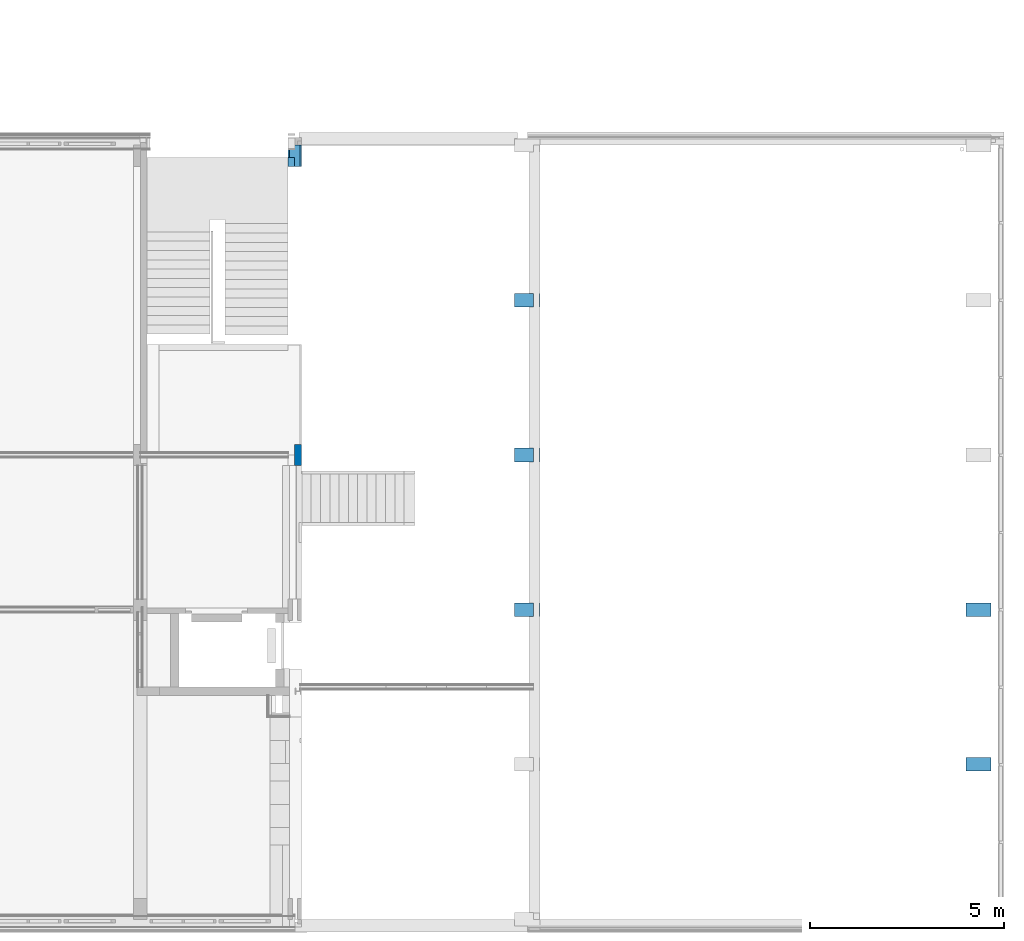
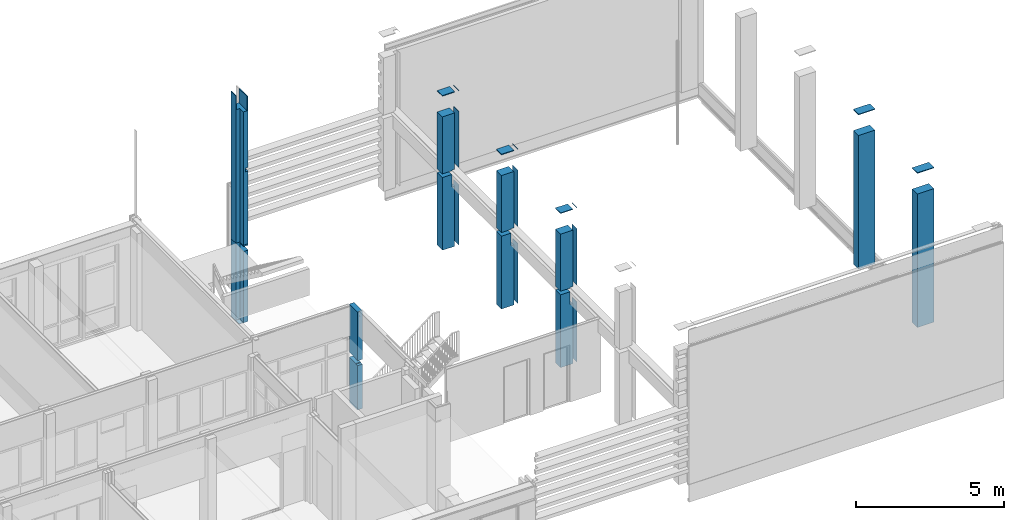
# One storey, part 15 of 94: 8 columns.
"""IFC2X3 building model written with IfcOpenShell, lengths in millimetres."""

from ifc_helpers import new_model, entity, si_unit, converted_unit, derived_unit, money_unit, direction, frame, origin_with_axes, place, context, subcontext, project, spatial, faceted_brep, material, type_object, element, save


model = new_model("IFC2X3")

# Units and contexts
model_context = context("Model", 3, precision=0.01, world=origin_with_axes(), true_north=direction((0.0, 1.0)))
body_context = subcontext(model_context, "Body", "Model", "MODEL_VIEW")
ifc_project = project(units=[si_unit("LENGTHUNIT", "METRE", prefix="MILLI"), si_unit("AREAUNIT", "SQUARE_METRE"), si_unit("VOLUMEUNIT", "CUBIC_METRE"), converted_unit("PLANEANGLEUNIT", "DEGREE", entity("IfcPlaneAngleMeasure", 0.0174532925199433), si_unit("PLANEANGLEUNIT", "RADIAN"), dimensions=[0, 0, 0, 0, 0, 0, 0]), money_unit("EUR"), converted_unit("TIMEUNIT", "Year", entity("IfcTimeMeasure", 31557600.0), si_unit("TIMEUNIT", "SECOND"), dimensions=[0, 0, 1, 0, 0, 0, 0]), si_unit("MASSUNIT", "GRAM", prefix="KILO"), si_unit("THERMODYNAMICTEMPERATUREUNIT", "DEGREE_CELSIUS"), si_unit("LUMINOUSINTENSITYUNIT", "LUMEN"), si_unit("ENERGYUNIT", "JOULE", prefix="MEGA"), derived_unit("THERMALCONDUCTANCEUNIT", [(si_unit("POWERUNIT", "WATT"), 1), (si_unit("LENGTHUNIT", "METRE"), -1), (si_unit("THERMODYNAMICTEMPERATUREUNIT", "KELVIN"), -1)]), derived_unit("SPECIFICHEATCAPACITYUNIT", [(si_unit("ENERGYUNIT", "JOULE"), 1), (si_unit("MASSUNIT", "GRAM", prefix="KILO"), -1), (si_unit("THERMODYNAMICTEMPERATUREUNIT", "KELVIN"), -1)]), derived_unit("MASSDENSITYUNIT", [(si_unit("MASSUNIT", "GRAM", prefix="KILO"), 1), (si_unit("VOLUMEUNIT", "CUBIC_METRE"), -1)])], contexts=[model_context])

# Site, building, storey
site_placement = place(None, origin_with_axes())
site = spatial("IfcSite", under=ifc_project, at=site_placement, Name="<site naam>", CompositionType="ELEMENT")
building_placement = place(site_placement, origin_with_axes())
building = spatial("IfcBuilding", under=site, at=building_placement, Name="<Naam gebouw>", CompositionType="ELEMENT")
storey_placement = place(building_placement, frame((0.0, 0.0, 4250.0), z_axis=(0.0, 0.0, 1.0), x_axis=(1.0, 0.0, 0.0)))
storey = spatial("IfcBuildingStorey", under=building, at=storey_placement, Name="01 1e verdieping", CompositionType="ELEMENT", Elevation=4250.0)

# Columns
ifc_material = material(Name="betonblok C")
column_type_1 = type_object("IfcColumnType", Name="betonblok C 350 x 550", PredefinedType="COLUMN")
column_1_placement = place(storey_placement, frame((52000.00000000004, 19724.99999999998, 2125.0), z_axis=(0.0, 0.0, 1.0), x_axis=(1.0, 0.0, 0.0)))
element("IfcColumn", 1, at=column_1_placement, inside=storey, type_object=column_type_1, material=ifc_material, Name="28_Kolom_betonblok", ObjectType="COLUMN", context=body_context, shape_type="Brep", body=[
    faceted_brep([(174.9999999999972, 275.0000000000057, 500.0), (174.9999999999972, 264.9999975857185, 500.0), (174.9999999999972, 264.9999975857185, 650.0000000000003), (174.9999999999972, 275.0000000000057, 650.0000000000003), (174.9999999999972, 275.0000000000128, 1000.0), (174.9999999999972, 264.9999975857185, 1000.0), (174.9999999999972, 264.9999975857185, 1150.0), (174.9999999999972, 275.0000000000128, 1150.0), (174.9999999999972, 275.0000000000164, 1500.0), (174.9999999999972, 264.9999975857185, 1500.0), (174.9999999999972, 264.9999975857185, 1650.0), (174.9999999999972, 275.0000000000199, 1650.0), (174.9999999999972, 275.0000000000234, 2000.0), (174.9999999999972, 264.9999975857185, 2000.0), (174.9999999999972, 264.9999975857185, 2150.0), (174.9999999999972, 275.000000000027, 2150.0), (174.9999999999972, 275.000000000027, 2500.0), (174.9999999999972, 264.9999975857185, 2500.0), (174.9999999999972, 264.9999975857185, 2650.0), (174.9999999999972, 275.0000000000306, 2650.0), (174.9999999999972, 275.0000000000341, 3000.0), (174.9999999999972, 264.9999975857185, 3000.0), (174.9999999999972, 264.9999975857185, 3008.000000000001), (174.9999999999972, -274.9999999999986, 3008.000000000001), (174.9999999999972, -274.9999999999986, 0.0), (174.9999999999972, 274.9999999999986, 0.0), (104.9999999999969, 264.9999975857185, 500.0), (104.9999999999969, 275.0000000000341, 500.0), (104.9999999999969, 264.9999975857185, 650.0000000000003), (104.9999999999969, 275.0000000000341, 650.0000000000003), (-174.9999999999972, 274.9999999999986, 0.0), (-174.9999999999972, 274.9999999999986, 6094.999999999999), (-145.0000000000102, 274.9999999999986, 6094.999999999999), (-145.0000000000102, 275.0000000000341, 5515.000000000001), (134.9999999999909, 275.0000000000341, 5515.000000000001), (134.9999999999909, 274.9999999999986, 6094.999999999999), (174.9999999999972, 274.9999999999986, 6094.999999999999), (174.9999999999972, 275.0000000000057, 5337.5), (104.9999999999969, 275.0000000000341, 5337.5), (104.9999999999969, 275.0000000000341, 5187.5), (174.9999999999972, 275.0000000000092, 5187.5), (174.9999999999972, 275.0000000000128, 4837.5), (104.9999999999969, 275.0000000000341, 4837.5), (104.9999999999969, 275.0000000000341, 4687.5), (174.9999999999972, 275.0000000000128, 4687.5), (174.9999999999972, 275.0000000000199, 4337.5), (104.9999999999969, 275.0000000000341, 4337.5), (104.9999999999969, 275.0000000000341, 4187.5), (174.9999999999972, 275.0000000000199, 4187.5), (174.9999999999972, 275.000000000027, 3837.5), (104.9999999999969, 275.0000000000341, 3837.5), (104.9999999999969, 275.0000000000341, 3687.5), (174.9999999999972, 275.000000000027, 3687.5), (174.9999999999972, 275.0000000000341, 3158.000000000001), (64.99999999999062, 275.0000000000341, 3158.000000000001), (64.99999999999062, 275.0000000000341, 3008.000000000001), (104.9999999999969, 275.0000000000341, 3008.000000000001), (104.9999999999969, 275.0000000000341, 3000.0), (104.9999999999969, 275.0000000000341, 2650.0), (104.9999999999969, 275.0000000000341, 2500.0), (104.9999999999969, 275.0000000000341, 2150.0), (104.9999999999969, 275.0000000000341, 2000.0), (104.9999999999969, 275.0000000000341, 1650.0), (104.9999999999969, 275.0000000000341, 1500.0), (104.9999999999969, 275.0000000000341, 1150.0), (104.9999999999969, 275.0000000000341, 1000.0), (104.9999999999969, 264.9999975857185, 1000.0), (104.9999999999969, 264.9999975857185, 1150.0), (104.9999999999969, 264.9999975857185, 1500.0), (104.9999999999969, 264.9999975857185, 1650.0), (104.9999999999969, 264.9999975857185, 2000.0), (104.9999999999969, 264.9999975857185, 2150.0), (104.9999999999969, 264.9999975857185, 2500.0), (104.9999999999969, 264.9999975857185, 2650.0), (104.9999999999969, 264.9999975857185, 3000.0), (104.9999999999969, 264.9999975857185, 3008.000000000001), (64.99999999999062, -274.9999999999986, 3008.000000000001), (134.9999999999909, -274.9999999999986, 6094.999999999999), (134.9999999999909, -274.9999999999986, 5515.000000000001), (-15.00000000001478, -274.9999999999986, 5515.000000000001), (-15.00000000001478, -274.9999999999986, 0.0), (64.99999999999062, -274.9999999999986, 3158.000000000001), (174.9999999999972, -274.9999999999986, 3158.000000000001), (174.9999999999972, -274.9999999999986, 6094.999999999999), (-15.00000000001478, -39.08932188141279, 0.0), (-175.0000000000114, -39.08932188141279, 0.0), (-175.0000000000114, -39.08932188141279, 6094.999999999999), (-145.0000000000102, -39.08932188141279, 6094.999999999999), (-145.0000000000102, -39.08932188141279, 5515.000000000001), (-15.00000000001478, -39.08932188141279, 5515.000000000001), (174.9999999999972, 264.9999975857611, 3687.5), (174.9999999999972, 264.9999975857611, 3837.5), (174.9999999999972, 264.9999975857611, 4187.5), (174.9999999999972, 264.9999975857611, 4337.5), (174.9999999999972, 264.9999975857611, 4687.5), (174.9999999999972, 264.9999975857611, 4837.5), (174.9999999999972, 264.9999975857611, 5187.5), (174.9999999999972, 264.9999975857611, 5337.5), (104.9999999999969, 264.9999975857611, 5337.5), (104.9999999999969, 264.9999975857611, 5187.5), (104.9999999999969, 264.9999975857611, 4837.5), (104.9999999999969, 264.9999975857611, 4687.5), (104.9999999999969, 264.9999975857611, 4337.5), (104.9999999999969, 264.9999975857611, 4187.5), (104.9999999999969, 264.9999975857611, 3837.5), (104.9999999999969, 264.9999975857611, 3687.5)], [[[0, 1, 2, 3, 4, 5, 6, 7, 8, 9, 10, 11, 12, 13, 14, 15, 16, 17, 18, 19, 20, 21, 22, 23, 24, 25]], [[26, 1, 0, 27]], [[28, 2, 1, 26]], [[28, 29, 3, 2]], [[29, 27, 0, 25, 30, 31, 32, 33, 34, 35, 36, 37, 38, 39, 40, 41, 42, 43, 44, 45, 46, 47, 48, 49, 50, 51, 52, 53, 54, 55, 56, 57, 20, 19, 58, 59, 16, 15, 60, 61, 12, 11, 62, 63, 8, 7, 64, 65, 4, 3]], [[66, 5, 4, 65]], [[67, 6, 5, 66]], [[67, 64, 7, 6]], [[68, 9, 8, 63]], [[69, 10, 9, 68]], [[69, 62, 11, 10]], [[70, 13, 12, 61]], [[71, 14, 13, 70]], [[71, 60, 15, 14]], [[72, 17, 16, 59]], [[73, 18, 17, 72]], [[73, 58, 19, 18]], [[74, 21, 20, 57]], [[74, 75, 22, 21]], [[22, 75, 56, 55, 76, 23]], [[77, 78, 79, 80, 24, 23, 76, 81, 82, 83]], [[25, 24, 80, 84, 85, 30]], [[26, 27, 29, 28]], [[31, 30, 85, 86]], [[86, 87, 32, 31]], [[88, 33, 32, 87]], [[78, 34, 33, 88, 89, 79]], [[78, 77, 35, 34]], [[36, 35, 77, 83]], [[52, 90, 91, 49, 48, 92, 93, 45, 44, 94, 95, 41, 40, 96, 97, 37, 36, 83, 82, 53]], [[98, 38, 37, 97]], [[99, 39, 38, 98]], [[99, 96, 40, 39]], [[100, 42, 41, 95]], [[101, 43, 42, 100]], [[101, 94, 44, 43]], [[102, 46, 45, 93]], [[103, 47, 46, 102]], [[103, 92, 48, 47]], [[104, 50, 49, 91]], [[105, 51, 50, 104]], [[105, 90, 52, 51]], [[82, 81, 54, 53]], [[81, 76, 55, 54]], [[74, 57, 56, 75]], [[72, 59, 58, 73]], [[70, 61, 60, 71]], [[68, 63, 62, 69]], [[66, 65, 64, 67]], [[80, 79, 89, 84]], [[89, 88, 87, 86, 85, 84]], [[104, 91, 90, 105]], [[102, 93, 92, 103]], [[100, 95, 94, 101]], [[98, 97, 96, 99]]]),
])
column_2_placement = place(storey_placement, frame((52000.00000000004, 19724.99999999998, -1082.5), z_axis=(0.0, 0.0, 1.0), x_axis=(1.0, 0.0, 0.0)))
element("IfcColumn", 2, at=column_2_placement, inside=storey, type_object=column_type_1, material=ifc_material, Name="28_Kolom_betonblok", ObjectType="COLUMN", context=body_context, shape_type="Brep", body=[
    faceted_brep([(174.9999999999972, 275.0000000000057, 519.9999999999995), (174.9999999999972, 264.9999975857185, 519.9999999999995), (174.9999999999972, 264.9999975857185, 669.9999999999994), (174.9999999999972, 275.0000000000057, 669.9999999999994), (174.9999999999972, 275.0000000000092, 1020.0), (174.9999999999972, 264.9999975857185, 1020.0), (174.9999999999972, 264.9999975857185, 1170.0), (174.9999999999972, 275.0000000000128, 1170.0), (174.9999999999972, 275.0000000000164, 1520.0), (174.9999999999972, 264.9999975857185, 1520.0), (174.9999999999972, 264.9999975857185, 1670.0), (174.9999999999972, 275.0000000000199, 1670.0), (174.9999999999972, 275.0000000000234, 2020.0), (174.9999999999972, 264.9999975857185, 2020.0), (174.9999999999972, 264.9999975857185, 2170.0), (174.9999999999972, 275.0000000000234, 2170.0), (174.9999999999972, 275.0000000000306, 2520.0), (174.9999999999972, 264.9999975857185, 2520.0), (174.9999999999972, 264.9999975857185, 2670.0), (174.9999999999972, 275.0000000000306, 2670.0), (174.9999999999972, 275.0000000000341, 2947.499999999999), (174.9999999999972, -274.9999999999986, 2947.499999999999), (174.9999999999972, -274.9999999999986, 0.0), (174.9999999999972, 274.9999999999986, 0.0), (104.9999999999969, 264.9999975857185, 519.9999999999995), (104.9999999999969, 275.0000000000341, 519.9999999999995), (104.9999999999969, 264.9999975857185, 669.9999999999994), (104.9999999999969, 275.0000000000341, 669.9999999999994), (-174.9999999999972, 274.9999999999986, 0.0), (-174.9999999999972, 274.9999999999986, 3227.499999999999), (174.9999999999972, 274.9999999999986, 3227.499999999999), (174.9999999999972, 275.0000000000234, 3170.0), (104.9999999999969, 275.0000000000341, 3170.0), (104.9999999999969, 275.0000000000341, 3147.499999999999), (-15.00009753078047, 275.0000000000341, 3147.499999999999), (-15.00009753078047, 275.0000000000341, 2947.499999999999), (104.9999999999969, 275.0000000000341, 2670.0), (104.9999999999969, 275.0000000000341, 2520.0), (104.9999999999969, 275.0000000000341, 2170.0), (104.9999999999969, 275.0000000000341, 2020.0), (104.9999999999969, 275.0000000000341, 1670.0), (104.9999999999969, 275.0000000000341, 1520.0), (104.9999999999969, 275.0000000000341, 1170.0), (104.9999999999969, 275.0000000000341, 1020.0), (104.9999999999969, 264.9999975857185, 1020.0), (104.9999999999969, 264.9999975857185, 1170.0), (104.9999999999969, 264.9999975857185, 1520.0), (104.9999999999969, 264.9999975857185, 1670.0), (104.9999999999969, 264.9999975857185, 2020.0), (104.9999999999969, 264.9999975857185, 2170.0), (104.9999999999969, 264.9999975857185, 2520.0), (104.9999999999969, 264.9999975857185, 2670.0), (-15.00009753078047, -39.08932188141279, 2947.499999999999), (-15.00009753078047, -274.9999999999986, 2947.499999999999), (-174.9999999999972, -274.9999999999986, 0.0), (-15.00000000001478, -274.9999999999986, 20.49999999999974), (-175.0000000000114, -274.9999999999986, 20.49999999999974), (-175.0000000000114, -39.08932188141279, 20.49999999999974), (-175.0000000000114, -39.08932188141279, 3227.499999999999), (-15.00000000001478, -39.08932188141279, 3227.499999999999), (-15.00000000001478, -274.9999999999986, 3227.499999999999), (174.9999999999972, -274.9999999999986, 3227.499999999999), (174.9999999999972, -274.9999999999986, 3147.499999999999), (174.9999999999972, 264.9999975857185, 3147.499999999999), (174.9999999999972, 264.9999975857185, 3170.0), (104.9999999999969, 264.9999975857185, 3170.0), (104.9999999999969, 264.9999975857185, 3147.499999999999), (-15.00009753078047, -274.9999999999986, 3147.499999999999), (-15.00009753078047, -39.08932188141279, 3147.499999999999), (-15.00000000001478, -39.08932188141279, 20.49999999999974)], [[[0, 1, 2, 3, 4, 5, 6, 7, 8, 9, 10, 11, 12, 13, 14, 15, 16, 17, 18, 19, 20, 21, 22, 23]], [[24, 1, 0, 25]], [[26, 2, 1, 24]], [[26, 27, 3, 2]], [[27, 25, 0, 23, 28, 29, 30, 31, 32, 33, 34, 35, 20, 19, 36, 37, 16, 15, 38, 39, 12, 11, 40, 41, 8, 7, 42, 43, 4, 3]], [[44, 5, 4, 43]], [[45, 6, 5, 44]], [[45, 42, 7, 6]], [[46, 9, 8, 41]], [[47, 10, 9, 46]], [[47, 40, 11, 10]], [[48, 13, 12, 39]], [[49, 14, 13, 48]], [[49, 38, 15, 14]], [[50, 17, 16, 37]], [[51, 18, 17, 50]], [[51, 36, 19, 18]], [[52, 53, 21, 20, 35]], [[54, 22, 21, 53, 55, 56]], [[54, 28, 23, 22]], [[24, 25, 27, 26]], [[28, 54, 56, 57, 58, 29]], [[30, 29, 58, 59, 60, 61]], [[62, 63, 64, 31, 30, 61]], [[65, 32, 31, 64]], [[66, 33, 32, 65]], [[33, 66, 63, 62, 67, 68, 34]], [[68, 52, 35, 34]], [[50, 37, 36, 51]], [[48, 39, 38, 49]], [[46, 41, 40, 47]], [[44, 43, 42, 45]], [[69, 55, 53, 52]], [[55, 69, 57, 56]], [[57, 69, 52, 68, 59, 58]], [[60, 59, 68, 67]], [[61, 60, 67, 62]], [[65, 64, 63, 66]]]),
])
column_3_placement = place(storey_placement, frame((52000.00000000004, 12000.00000000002, 0.0), z_axis=(0.0, 0.0, 1.0), x_axis=(1.0, 0.0, 0.0)))
element("IfcColumn", 3, at=column_3_placement, inside=storey, type_object=column_type_1, material=ifc_material, Name="28_Kolom_betonblok", ObjectType="COLUMN", context=body_context, shape_type="Brep", body=[
    faceted_brep([(-15.00000000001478, 274.9999999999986, 0.0), (-15.00009753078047, 274.9999999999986, 1864.999999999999), (174.9999999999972, 275.0000000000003, 1864.999999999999), (174.9999999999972, 275.0000000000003, 0.0), (-15.00000000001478, -175.0000000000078, 1834.999999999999), (-15.00009753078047, -175.0000000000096, 1864.999999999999), (-15.00000000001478, -274.9999999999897, 0.0), (-15.00000000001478, -275.0000000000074, 1834.999999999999), (174.9999999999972, -175.0000000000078, 1864.999999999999), (174.9999999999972, -175.000000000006, 1834.999999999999), (174.9999999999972, -275.0000000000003, 1834.999999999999), (174.9999999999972, -275.0000000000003, 0.0), (174.679445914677, -275.0000000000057, 1834.999999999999)], [[[0, 1, 2, 3]], [[4, 5, 1, 0, 6, 7]], [[5, 8, 2, 1]], [[3, 2, 8, 9, 10, 11]], [[3, 11, 6, 0]], [[9, 8, 5, 4]], [[10, 12, 7, 6, 11]], [[12, 10, 9, 4, 7]]]),
    faceted_brep([(174.9999999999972, -275.0000000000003, 2034.999999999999), (174.9999999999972, -175.0000000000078, 2034.999999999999), (174.9999999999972, -175.0000000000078, 2065.0), (174.9999999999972, 275.0000000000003, 2065.0), (174.9999999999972, 275.0000000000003, 4050.000000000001), (174.9999999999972, -275.0000000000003, 4050.000000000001), (-15.00000000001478, -275.0000000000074, 2034.999999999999), (-15.00009753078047, -175.0000000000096, 2034.999999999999), (174.679445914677, -275.0000000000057, 2034.999999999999), (-15.00009753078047, -175.0000000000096, 2065.0), (-15.00009753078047, 274.9999999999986, 2065.0), (-15.00000000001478, 274.9999999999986, 4050.000000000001), (-15.00000000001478, -275.0000000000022, 4050.000000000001)], [[[0, 1, 2, 3, 4, 5]], [[6, 7, 1, 0, 8]], [[9, 2, 1, 7]], [[9, 10, 3, 2]], [[4, 3, 10, 11]], [[5, 4, 11, 12]], [[6, 8, 0, 5, 12]], [[10, 9, 7, 6, 12, 11]]]),
])
column_type_2 = type_object("IfcColumnType", Name="betonblok C 350 x 650", PredefinedType="COLUMN")
column_4_placement = place(storey_placement, frame((58000.00000000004, 15999.99999999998, 2125.0), z_axis=(0.0, 0.0, 1.0), x_axis=(0.0, -1.0, 0.0)))
element("IfcColumn", 4, at=column_4_placement, inside=storey, type_object=column_type_2, material=ifc_material, Name="28_Kolom_betonblok", ObjectType="COLUMN", context=body_context, shape_type="Brep", body=[
    faceted_brep([(-175.0000000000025, -325.0000000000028, 3008.000000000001), (-174.9999999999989, 44.99999999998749, 3008.000000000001), (-175.0000000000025, 44.99999999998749, 2487.500000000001), (-175.0000000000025, 157.7828447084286, 2487.500000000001), (-175.0000000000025, 157.7828447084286, 0.0), (-175.0000000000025, -325.0000000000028, 0.0), (175.0000000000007, -325.0000000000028, 3008.000000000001), (175.0000000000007, 44.99999999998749, 3008.000000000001), (175.0000000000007, 44.99999999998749, 2487.500000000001), (175.0000000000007, 157.7828447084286, 2487.500000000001), (175.0000000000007, 157.7828447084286, 0.0), (175.0000000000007, -325.0000000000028, 0.0)], [[[0, 1, 2, 3, 4, 5]], [[6, 7, 1, 0]], [[8, 2, 1, 7]], [[8, 9, 3, 2]], [[4, 3, 9, 10]], [[10, 11, 5, 4]], [[5, 11, 6, 0]], [[9, 8, 7, 6, 11, 10]]]),
    faceted_brep([(175.0000000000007, 157.7828447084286, 6365.0), (175.0000000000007, 45.00000000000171, 6365.0), (175.0000000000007, -325.0000000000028, 6365.0), (-175.0000000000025, -325.0000000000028, 6365.0), (-175.0000000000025, 45.00000000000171, 6365.0), (-175.0000000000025, 157.7828447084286, 6365.0), (175.0000000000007, -325.0000000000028, 6395.0), (175.0000000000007, 157.7828447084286, 6395.0), (-175.0000000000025, -325.0000000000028, 6395.0), (-175.0000000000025, 157.7828447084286, 6395.0)], [[[0, 1, 2, 3, 4, 5]], [[6, 2, 1, 0, 7]], [[8, 3, 2, 6]], [[5, 4, 3, 8, 9]], [[7, 0, 5, 9]], [[9, 8, 6, 7]]]),
    faceted_brep([(-175.0000000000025, -325.0000000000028, 3158.000000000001), (-175.0000000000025, -325.0000000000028, 5515.000000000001), (-175.0000000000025, 45.00000000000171, 5515.000000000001), (-175.0000000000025, 157.7828447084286, 5515.000000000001), (-175.0000000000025, 157.7828447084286, 3187.5), (-175.0000000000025, 44.99999999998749, 3187.5), (-174.9999999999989, 44.99999999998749, 3158.000000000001), (175.0000000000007, -325.0000000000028, 3158.000000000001), (175.0000000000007, -325.0000000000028, 5515.000000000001), (175.0000000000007, 45.00000000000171, 5515.000000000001), (175.0000000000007, 157.7828447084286, 5515.000000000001), (175.0000000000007, 157.7828447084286, 3187.5), (175.0000000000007, 44.99999999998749, 3187.5), (175.0000000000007, 44.99999999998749, 3158.000000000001)], [[[0, 1, 2, 3, 4, 5, 6]], [[7, 8, 1, 0]], [[3, 2, 1, 8, 9, 10]], [[4, 3, 10, 11]], [[12, 5, 4, 11]], [[13, 6, 5, 12]], [[0, 6, 13, 7]], [[10, 9, 8, 7, 13, 12, 11]]]),
    faceted_brep([(-175.000000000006, 317.7828447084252, 0.0), (-175.0000000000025, 317.7828447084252, 2487.500000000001), (-175.0000000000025, 324.9999999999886, 2487.500000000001), (-175.0000000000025, 325.0000000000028, 0.0), (175.0000000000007, 317.7828447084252, 0.0), (175.0000000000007, 317.7828447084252, 2487.500000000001), (175.0000000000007, 324.9999999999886, 2487.500000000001), (175.0000000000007, 325.0000000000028, 0.0)], [[[0, 1, 2, 3]], [[4, 5, 1, 0]], [[5, 6, 2, 1]], [[3, 2, 6, 7]], [[0, 3, 7, 4]], [[7, 6, 5, 4]]]),
    faceted_brep([(-175.0000000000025, 317.7828447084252, 3187.5), (-175.0000000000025, 317.7828447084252, 5515.000000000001), (-175.0000000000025, 325.0000000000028, 5515.000000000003), (-175.0000000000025, 324.9999999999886, 3187.5), (175.0000000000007, 317.7828447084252, 3187.5), (175.0000000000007, 317.7828447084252, 5515.000000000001), (175.0000000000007, 325.0000000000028, 5515.000000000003), (175.0000000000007, 324.9999999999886, 3187.5)], [[[0, 1, 2, 3]], [[4, 5, 1, 0]], [[5, 6, 2, 1]], [[3, 2, 6, 7]], [[4, 0, 3, 7]], [[7, 6, 5, 4]]]),
    faceted_brep([(175.0000000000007, 325.0000000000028, 6395.0), (175.0000000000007, 325.0000000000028, 6365.0), (-175.0000000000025, 325.0000000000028, 6365.0), (-175.0000000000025, 325.0000000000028, 6395.0), (175.0000000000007, 317.7828447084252, 6395.0), (175.0000000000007, 317.7828447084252, 6365.0), (-175.0000000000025, 317.7828447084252, 6365.0), (-175.0000000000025, 317.7828447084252, 6395.0)], [[[0, 1, 2, 3]], [[4, 5, 1, 0]], [[5, 6, 2, 1]], [[3, 2, 6, 7]], [[4, 0, 3, 7]], [[7, 6, 5, 4]]]),
])
column_5_placement = place(storey_placement, frame((58000.00000000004, 12000.00000000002, 2125.0), z_axis=(0.0, 0.0, 1.0), x_axis=(0.0, -1.0, 0.0)))
element("IfcColumn", 5, at=column_5_placement, inside=storey, type_object=column_type_2, material=ifc_material, Name="28_Kolom_betonblok", ObjectType="COLUMN", context=body_context, shape_type="Brep", body=[
    faceted_brep([(-175.0000000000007, -325.0000000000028, 3008.000000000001), (-174.9999999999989, 44.99999999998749, 3008.000000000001), (-175.0000000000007, 44.99999999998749, 2487.500000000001), (-175.0000000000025, 157.7828447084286, 2487.500000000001), (-175.0000000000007, 157.7828447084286, 0.0), (-175.0000000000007, -325.0000000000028, 0.0), (175.0000000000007, -325.0000000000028, 3008.000000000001), (174.9999999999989, 44.99999999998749, 3008.000000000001), (174.9999999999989, 44.99999999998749, 2487.500000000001), (175.0000000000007, 157.7828447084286, 2487.500000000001), (175.0000000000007, 157.7828447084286, 0.0), (175.0000000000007, -325.0000000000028, 0.0)], [[[0, 1, 2, 3, 4, 5]], [[6, 7, 1, 0]], [[8, 2, 1, 7]], [[8, 9, 3, 2]], [[4, 3, 9, 10]], [[10, 11, 5, 4]], [[5, 11, 6, 0]], [[9, 8, 7, 6, 11, 10]]]),
    faceted_brep([(175.0000000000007, 157.7828447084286, 6365.0), (175.0000000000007, 45.00000000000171, 6365.0), (175.0000000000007, -325.0000000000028, 6365.0), (-175.0000000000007, -325.0000000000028, 6365.0), (-175.0000000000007, 45.00000000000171, 6365.0), (-175.0000000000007, 157.7828447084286, 6365.0), (175.0000000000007, -325.0000000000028, 6395.0), (175.0000000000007, 157.7828447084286, 6395.0), (-175.0000000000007, -325.0000000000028, 6395.0), (-175.0000000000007, 157.7828447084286, 6395.0)], [[[0, 1, 2, 3, 4, 5]], [[6, 2, 1, 0, 7]], [[8, 3, 2, 6]], [[5, 4, 3, 8, 9]], [[7, 0, 5, 9]], [[9, 8, 6, 7]]]),
    faceted_brep([(-175.0000000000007, -325.0000000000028, 3158.000000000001), (-175.0000000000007, -325.0000000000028, 5515.000000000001), (-175.0000000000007, 45.00000000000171, 5515.000000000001), (-175.0000000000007, 157.7828447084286, 5515.000000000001), (-175.0000000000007, 157.7828447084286, 3187.5), (-175.0000000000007, 44.99999999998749, 3187.5), (-174.9999999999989, 44.99999999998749, 3158.000000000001), (175.0000000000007, -325.0000000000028, 3158.000000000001), (175.0000000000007, -325.0000000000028, 5515.000000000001), (175.0000000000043, 45.00000000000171, 5515.000000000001), (175.0000000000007, 157.7828447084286, 5515.000000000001), (175.0000000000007, 157.7828447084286, 3187.5), (174.9999999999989, 44.99999999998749, 3187.5), (175.0000000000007, 44.99999999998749, 3158.000000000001)], [[[0, 1, 2, 3, 4, 5, 6]], [[7, 8, 1, 0]], [[3, 2, 1, 8, 9, 10]], [[4, 3, 10, 11]], [[12, 5, 4, 11]], [[13, 6, 5, 12]], [[0, 6, 13, 7]], [[10, 9, 8, 7, 13, 12, 11]]]),
    faceted_brep([(-175.0000000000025, 317.7828447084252, 0.0), (-175.0000000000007, 317.7828447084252, 2487.500000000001), (-175.0000000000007, 324.9999999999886, 2487.500000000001), (-175.0000000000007, 325.0000000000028, 0.0), (175.0000000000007, 317.7828447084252, 0.0), (175.0000000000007, 317.7828447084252, 2487.500000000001), (175.0000000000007, 324.9999999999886, 2487.500000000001), (175.0000000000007, 325.0000000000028, 0.0)], [[[0, 1, 2, 3]], [[4, 5, 1, 0]], [[5, 6, 2, 1]], [[3, 2, 6, 7]], [[0, 3, 7, 4]], [[7, 6, 5, 4]]]),
    faceted_brep([(-175.0000000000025, 317.7828447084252, 3187.5), (-175.0000000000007, 317.7828447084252, 5515.000000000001), (-175.0000000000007, 325.0000000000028, 5515.000000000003), (-175.0000000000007, 324.9999999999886, 3187.5), (175.0000000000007, 317.7828447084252, 3187.5), (175.0000000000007, 317.7828447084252, 5515.000000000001), (175.0000000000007, 325.0000000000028, 5515.000000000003), (174.9999999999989, 324.9999999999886, 3187.5)], [[[0, 1, 2, 3]], [[4, 5, 1, 0]], [[5, 6, 2, 1]], [[3, 2, 6, 7]], [[4, 0, 3, 7]], [[7, 6, 5, 4]]]),
    faceted_brep([(175.0000000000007, 325.0000000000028, 6395.0), (175.0000000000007, 325.0000000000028, 6365.0), (-175.0000000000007, 325.0000000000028, 6365.0), (-175.0000000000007, 325.0000000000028, 6395.0), (175.0000000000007, 317.7828447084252, 6395.0), (175.0000000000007, 317.7828447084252, 6365.0), (-175.0000000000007, 317.7828447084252, 6365.0), (-175.0000000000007, 317.7828447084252, 6395.0)], [[[0, 1, 2, 3]], [[4, 5, 1, 0]], [[5, 6, 2, 1]], [[3, 2, 6, 7]], [[4, 0, 3, 7]], [[7, 6, 5, 4]]]),
])
column_6_placement = place(storey_placement, frame((58000.00000000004, 8000.000000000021, 2125.0), z_axis=(0.0, 0.0, 1.0), x_axis=(0.0, -1.0, 0.0)))
element("IfcColumn", 6, at=column_6_placement, inside=storey, type_object=column_type_2, material=ifc_material, Name="28_Kolom_betonblok", ObjectType="COLUMN", context=body_context, shape_type="Brep", body=[
    faceted_brep([(-175.0000000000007, -325.0000000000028, 3008.000000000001), (-175.0000000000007, 44.99999999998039, 3008.000000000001), (-175.0000000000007, 44.99999999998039, 2487.500000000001), (-175.0000000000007, 157.7828447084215, 2487.500000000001), (-174.9999999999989, 157.7828447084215, 0.0), (-175.0000000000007, -325.0000000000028, 0.0), (174.9999999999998, -325.0000000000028, 3008.000000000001), (174.9999999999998, 44.99999999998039, 3008.000000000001), (174.9999999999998, 44.99999999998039, 2487.500000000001), (174.9999999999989, 157.7828447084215, 2487.500000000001), (174.9999999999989, 157.7828447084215, 0.0), (174.9999999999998, -325.0000000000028, 0.0)], [[[0, 1, 2, 3, 4, 5]], [[6, 7, 1, 0]], [[8, 2, 1, 7]], [[8, 9, 3, 2]], [[4, 3, 9, 10]], [[10, 11, 5, 4]], [[5, 11, 6, 0]], [[9, 8, 7, 6, 11, 10]]]),
    faceted_brep([(174.9999999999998, 157.7828447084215, 6365.0), (174.999999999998, 45.00000000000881, 6365.0), (174.9999999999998, -325.0000000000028, 6365.0), (-175.0000000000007, -325.0000000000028, 6365.0), (-175.0000000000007, 45.00000000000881, 6365.0), (-175.0000000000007, 157.7828447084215, 6365.0), (174.9999999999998, -325.0000000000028, 6395.0), (174.9999999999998, 157.7828447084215, 6395.0), (-175.0000000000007, -325.0000000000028, 6395.0), (-175.0000000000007, 157.7828447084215, 6395.0)], [[[0, 1, 2, 3, 4, 5]], [[6, 2, 1, 0, 7]], [[8, 3, 2, 6]], [[5, 4, 3, 8, 9]], [[7, 0, 5, 9]], [[9, 8, 6, 7]]]),
    faceted_brep([(-175.0000000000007, -325.0000000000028, 3158.000000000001), (-175.0000000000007, -325.0000000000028, 5515.000000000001), (-175.0000000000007, 45.00000000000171, 5515.000000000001), (-175.0000000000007, 157.7828447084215, 5515.000000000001), (-174.9999999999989, 157.7828447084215, 3187.5), (-175.0000000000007, 44.99999999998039, 3187.5), (-175.0000000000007, 44.99999999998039, 3158.000000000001), (174.9999999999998, -325.0000000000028, 3158.000000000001), (174.9999999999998, -325.0000000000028, 5515.000000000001), (174.999999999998, 45.00000000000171, 5515.000000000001), (174.9999999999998, 157.7828447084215, 5515.000000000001), (174.9999999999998, 157.7828447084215, 3187.5), (174.9999999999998, 44.99999999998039, 3187.5), (175.0000000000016, 44.99999999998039, 3158.000000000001)], [[[0, 1, 2, 3, 4, 5, 6]], [[7, 8, 1, 0]], [[3, 2, 1, 8, 9, 10]], [[4, 3, 10, 11]], [[12, 5, 4, 11]], [[13, 6, 5, 12]], [[0, 6, 13, 7]], [[10, 9, 8, 7, 13, 12, 11]]]),
    faceted_brep([(-175.0000000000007, 317.7828447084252, 0.0), (-174.9999999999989, 317.7828447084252, 2487.500000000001), (-175.0000000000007, 324.9999999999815, 2487.500000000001), (-175.0000000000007, 325.0000000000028, 0.0), (174.9999999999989, 317.7828447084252, 0.0), (174.9999999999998, 317.7828447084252, 2487.500000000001), (174.9999999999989, 324.9999999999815, 2487.500000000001), (174.9999999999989, 325.0000000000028, 0.0)], [[[0, 1, 2, 3]], [[4, 5, 1, 0]], [[5, 6, 2, 1]], [[3, 2, 6, 7]], [[0, 3, 7, 4]], [[7, 6, 5, 4]]]),
    faceted_brep([(-175.0000000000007, 317.7828447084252, 3187.5), (-175.0000000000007, 317.7828447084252, 5515.000000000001), (-175.0000000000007, 325.0000000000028, 5515.000000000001), (-175.0000000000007, 324.9999999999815, 3187.5), (174.9999999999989, 317.7828447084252, 3187.5), (174.9999999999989, 317.7828447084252, 5515.000000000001), (174.9999999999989, 325.0000000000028, 5515.000000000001), (174.9999999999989, 324.9999999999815, 3187.5)], [[[0, 1, 2, 3]], [[4, 5, 1, 0]], [[5, 6, 2, 1]], [[3, 2, 6, 7]], [[4, 0, 3, 7]], [[7, 6, 5, 4]]]),
    faceted_brep([(174.9999999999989, 325.0000000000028, 6395.0), (174.9999999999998, 325.0000000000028, 6365.0), (-175.0000000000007, 325.0000000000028, 6365.0), (-175.0000000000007, 325.0000000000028, 6395.0), (174.9999999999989, 317.7828447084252, 6395.0), (174.9999999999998, 317.7828447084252, 6365.0), (-175.0000000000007, 317.7828447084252, 6365.0), (-174.9999999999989, 317.7828447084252, 6395.0)], [[[0, 1, 2, 3]], [[4, 5, 1, 0]], [[5, 6, 2, 1]], [[3, 2, 6, 7]], [[4, 0, 3, 7]], [[7, 6, 5, 4]]]),
])
column_7_placement = place(storey_placement, frame((69650.0, 4010.910678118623, 2125.0), z_axis=(0.0, 0.0, 1.0), x_axis=(0.0, -1.0, 0.0)))
element("IfcColumn", 7, at=column_7_placement, inside=storey, type_object=column_type_2, material=ifc_material, Name="28_Kolom_betonblok", ObjectType="COLUMN", context=body_context, shape_type="Brep", body=[
    faceted_brep([(-174.9999999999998, -325.0000000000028, 0.0), (-175.0000000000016, -325.0000000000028, 5515.000000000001), (-175.0000000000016, 325.0000000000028, 5515.000000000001), (-174.9999999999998, 325.0000000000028, 0.0), (175.0000000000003, -325.0000000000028, 0.0), (174.9999999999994, -325.0000000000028, 5515.000000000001), (174.9999999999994, 325.0000000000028, 5515.000000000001), (175.0000000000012, 325.0000000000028, 0.0)], [[[0, 1, 2, 3]], [[4, 5, 1, 0]], [[5, 6, 2, 1]], [[3, 2, 6, 7]], [[4, 0, 3, 7]], [[7, 6, 5, 4]]]),
    faceted_brep([(175.0000000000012, 325.0000000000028, 6395.0), (174.9999999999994, 325.0000000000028, 6365.0), (-175.0000000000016, 325.0000000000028, 6365.0), (-174.9999999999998, 325.0000000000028, 6395.0), (175.0000000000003, -325.0000000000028, 6395.0), (174.9999999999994, -325.0000000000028, 6365.0), (-175.0000000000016, -325.0000000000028, 6365.0), (-174.9999999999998, -325.0000000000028, 6395.0)], [[[0, 1, 2, 3]], [[4, 5, 1, 0]], [[5, 6, 2, 1]], [[3, 2, 6, 7]], [[3, 7, 4, 0]], [[7, 6, 5, 4]]]),
])
column_8_placement = place(storey_placement, frame((69650.00000000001, 8000.000000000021, 2125.0), z_axis=(0.0, 0.0, 1.0), x_axis=(0.0, -1.0, 0.0)))
element("IfcColumn", 8, at=column_8_placement, inside=storey, type_object=column_type_2, material=ifc_material, Name="28_Kolom_betonblok", ObjectType="COLUMN", context=body_context, shape_type="Brep", body=[
    faceted_brep([(-175.0000000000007, -325.0000000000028, 0.0), (-175.0000000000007, -325.0000000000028, 5515.000000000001), (-175.0000000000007, 325.0000000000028, 5515.000000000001), (-175.0000000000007, 325.0000000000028, 0.0), (174.9999999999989, -325.0000000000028, 0.0), (174.999999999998, -325.0000000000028, 5515.000000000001), (174.999999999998, 325.0000000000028, 5515.000000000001), (174.9999999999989, 325.0000000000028, 0.0)], [[[0, 1, 2, 3]], [[4, 5, 1, 0]], [[5, 6, 2, 1]], [[3, 2, 6, 7]], [[4, 0, 3, 7]], [[7, 6, 5, 4]]]),
    faceted_brep([(174.9999999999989, 325.0000000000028, 6395.0), (174.999999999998, 325.0000000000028, 6365.0), (-175.0000000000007, 325.0000000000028, 6365.0), (-175.0000000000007, 325.0000000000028, 6395.0), (174.9999999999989, -325.0000000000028, 6395.0), (174.999999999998, -325.0000000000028, 6365.0), (-175.0000000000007, -325.0000000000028, 6365.0), (-175.0000000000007, -325.0000000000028, 6395.0)], [[[0, 1, 2, 3]], [[4, 5, 1, 0]], [[5, 6, 2, 1]], [[3, 2, 6, 7]], [[3, 7, 4, 0]], [[7, 6, 5, 4]]]),
])

save(model, "model.ifc")
